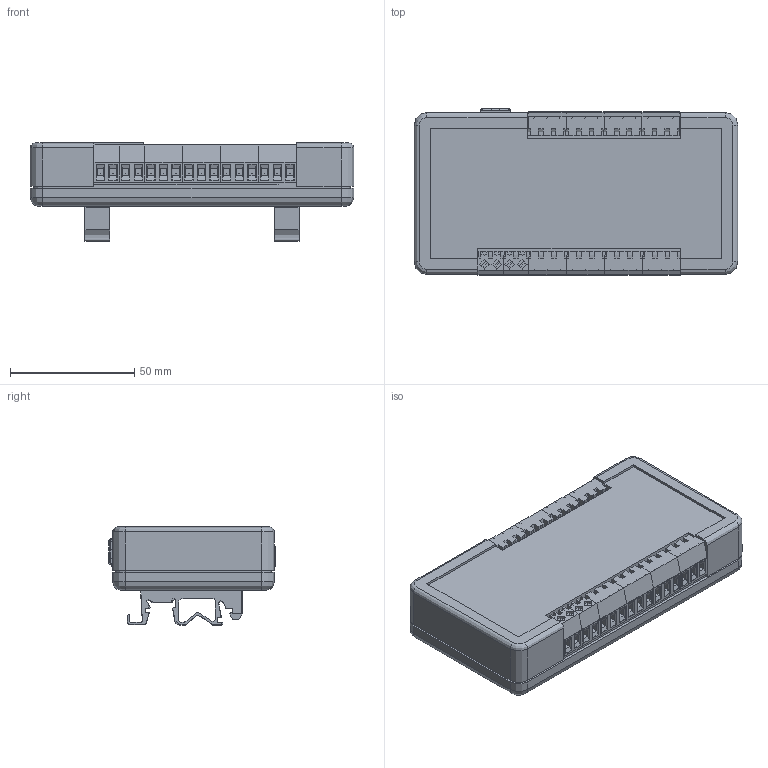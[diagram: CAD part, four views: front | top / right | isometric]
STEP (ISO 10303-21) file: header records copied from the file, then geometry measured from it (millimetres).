
FILE_DESCRIPTION (( 'STEP AP214' ), '1' );
FILE_NAME ('ADU 2X8 Terminal Block, DIN.STEP', '2026-10-01T20:11:06', ( '' ), ( '' ), 'SwSTEP 2.0', 'SolidWorks 2015', '' );
FILE_SCHEMA (( 'AUTOMOTIVE_DESIGN' ));
Length unit declared in the file: millimetre
Products named in the file (45): Wieland_25.163.0353.0_CAD STEP data; 90380A106_PHILLIPS THREAD-FORMING SCREW FOR PLASTIC; Wieland_25.163.0253.0_CAD STEP data; PCB; 91420A128_METRIC FLAT HEAD PHILLIPS MACHINE SCREW; ADU Base; ADU 2X8 Terminal Block, DIN; 90272A144_ZINC-PLTD STL PAN HEAD PHILLIPS MACHINE SCREW_90272A144; 1427DINCLIP; 91420A128_METRIC FLAT HEAD PHILLIPS MACHINE SCREW_91420A128; 94510A240_BRASS SCREW-TO-EXPAND INSERTS FOR PLASTICS_94510A240; ADU Top; 94510A240_BRASS SCREW-TO-EXPAND INSERTS FOR PLASTICS; 90272A144_ZINC-PLTD STL PAN HEAD PHILLIPS MACHINE SCREW; USB; 90380A106_PHILLIPS THREAD-FORMING SCREW FOR PLASTIC_90380A106
Assembly tree (48 placements, depth 2):
  Wieland_25.163.0353.0_CAD STEP data
  Wieland_25.163.0353.0_CAD STEP data
  Wieland_25.163.0253.0_CAD STEP data
  Wieland_25.163.0253.0_CAD STEP data
  PCB
Bounding box: 130 x 66.8 x 39.5 mm (x, y, z)
Volume: 87453.4 mm3; surface area: 86873.6 mm2
Topology: 31 solids, 32 shells, 7227 faces, 17193 edges, 10157 vertices
Faces by surface type: bspline 3250, plane 2101, cylinder 1592, cone 244, torus 32, sphere 8
Full cylindrical faces by diameter (mm): 2.15 x4, 3 x148, 3.175 x4, 3.4 x4, 3.76 x4, 4 x32, 4.305 x4, 5 x4, 5.537 x4, 5.563 x4, 6.3 x4, 6.5 x4, 6.858 x4, 7 x8
Entity records: 135962 total; most frequent: CARTESIAN_POINT 81962, ORIENTED_EDGE 11854, DIRECTION 7464, EDGE_CURVE 5931, VERTEX_POINT 3591, VECTOR 2648, LINE 2648, EDGE_LOOP 2630
